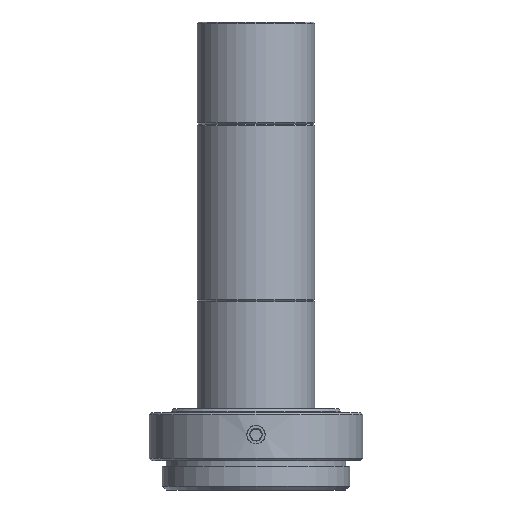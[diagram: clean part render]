
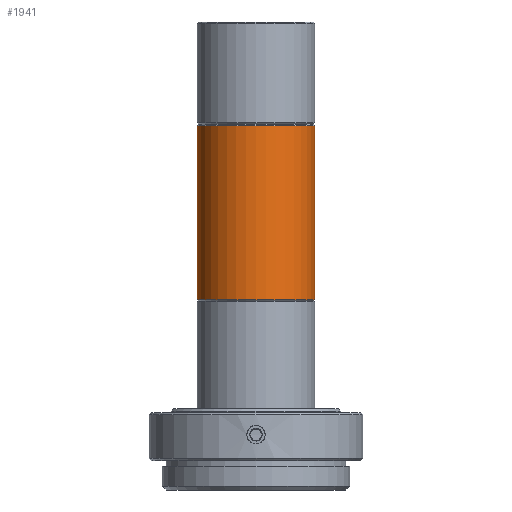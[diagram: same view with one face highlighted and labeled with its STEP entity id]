
A CAD part, front view. The second image highlights one B-rep face of the part: STEP entity #1941.
In plain terms, the highlighted cylindrical face has radius 8 mm (diameter 16 mm), a partial arc.
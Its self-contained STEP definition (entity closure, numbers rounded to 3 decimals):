
#752 = VERTEX_POINT ( 'NONE', #4356 ) ;
#753 = VERTEX_POINT ( 'NONE', #4360 ) ;
#756 = EDGE_CURVE ( 'NONE', #752, #753, #4355, .T. ) ;
#757 = EDGE_CURVE ( 'NONE', #808, #795, #4350, .T. ) ;
#773 = VERTEX_POINT ( 'NONE', #4393 ) ;
#776 = EDGE_CURVE ( 'NONE', #801, #773, #4423, .T. ) ;
#794 = VERTEX_POINT ( 'NONE', #4433 ) ;
#795 = VERTEX_POINT ( 'NONE', #4436 ) ;
#797 = VERTEX_POINT ( 'NONE', #4437 ) ;
#801 = VERTEX_POINT ( 'NONE', #4168 ) ;
#805 = EDGE_CURVE ( 'NONE', #797, #794, #4468, .T. ) ;
#808 = VERTEX_POINT ( 'NONE', #4456 ) ;
#1856 = EDGE_CURVE ( 'NONE', #752, #808, #6652, .T. ) ;
#1877 = EDGE_CURVE ( 'NONE', #773, #794, #6682, .T. ) ;
#1934 = EDGE_LOOP ( 'NONE', ( #1975, #1940, #1942, #1944, #1974, #1947, #1943, #1949 ) ) ;
#1940 = ORIENTED_EDGE ( 'NONE', *, *, #1856, .T. ) ;
#1941 = ADVANCED_FACE ( 'NONE', ( #6779 ), #6773, .T. ) ;
#1942 = ORIENTED_EDGE ( 'NONE', *, *, #757, .T. ) ;
#1943 = ORIENTED_EDGE ( 'NONE', *, *, #805, .F. ) ;
#1944 = ORIENTED_EDGE ( 'NONE', *, *, #1970, .F. ) ;
#1947 = ORIENTED_EDGE ( 'NONE', *, *, #1877, .T. ) ;
#1949 = ORIENTED_EDGE ( 'NONE', *, *, #1981, .F. ) ;
#1970 = EDGE_CURVE ( 'NONE', #801, #795, #6806, .T. ) ;
#1974 = ORIENTED_EDGE ( 'NONE', *, *, #776, .T. ) ;
#1975 = ORIENTED_EDGE ( 'NONE', *, *, #756, .F. ) ;
#1981 = EDGE_CURVE ( 'NONE', #753, #797, #6858, .T. ) ;
#4168 = CARTESIAN_POINT ( 'NONE',  ( -8., 0., -1.3 ) ) ;
#4347 = DIRECTION ( 'NONE',  ( 0., 0., -1. ) ) ;
#4348 = VECTOR ( 'NONE', #4347, 1000. ) ;
#4349 = CARTESIAN_POINT ( 'NONE',  ( -8., 0., 18.5 ) ) ;
#4350 = LINE ( 'NONE', #4349, #4348 ) ;
#4352 = DIRECTION ( 'NONE',  ( 0., 0., -1. ) ) ;
#4353 = VECTOR ( 'NONE', #4352, 1000. ) ;
#4354 = CARTESIAN_POINT ( 'NONE',  ( 8., 0., 18.5 ) ) ;
#4355 = LINE ( 'NONE', #4354, #4353 ) ;
#4356 = CARTESIAN_POINT ( 'NONE',  ( 8., 0., 18.3 ) ) ;
#4360 = CARTESIAN_POINT ( 'NONE',  ( 8., 0., 14.3 ) ) ;
#4381 = CARTESIAN_POINT ( 'NONE',  ( -8., 0., 18.5 ) ) ;
#4393 = CARTESIAN_POINT ( 'NONE',  ( -8., 0., -5.3 ) ) ;
#4421 = DIRECTION ( 'NONE',  ( 0., 0., -1. ) ) ;
#4422 = VECTOR ( 'NONE', #4421, 1000. ) ;
#4423 = LINE ( 'NONE', #4381, #4422 ) ;
#4433 = CARTESIAN_POINT ( 'NONE',  ( 8., 0., -5.3 ) ) ;
#4436 = CARTESIAN_POINT ( 'NONE',  ( -8., 0., 14.3 ) ) ;
#4437 = CARTESIAN_POINT ( 'NONE',  ( 8., 0., -1.3 ) ) ;
#4456 = CARTESIAN_POINT ( 'NONE',  ( -8., 0., 18.3 ) ) ;
#4465 = DIRECTION ( 'NONE',  ( 0., 0., -1. ) ) ;
#4466 = VECTOR ( 'NONE', #4465, 1000. ) ;
#4467 = CARTESIAN_POINT ( 'NONE',  ( 8., 0., 18.5 ) ) ;
#4468 = LINE ( 'NONE', #4467, #4466 ) ;
#6649 = DIRECTION ( 'NONE',  ( 1., 0., 0. ) ) ;
#6650 = DIRECTION ( 'NONE',  ( 0., 0., -1. ) ) ;
#6651 = AXIS2_PLACEMENT_3D ( 'NONE', #6663, #6650, #6649 ) ;
#6652 = CIRCLE ( 'NONE', #6651, 8. ) ;
#6663 = CARTESIAN_POINT ( 'NONE',  ( 0., 0., 18.3 ) ) ;
#6674 = DIRECTION ( 'NONE',  ( 1., 0., 0. ) ) ;
#6675 = DIRECTION ( 'NONE',  ( 0., 0., 1. ) ) ;
#6676 = AXIS2_PLACEMENT_3D ( 'NONE', #6697, #6675, #6674 ) ;
#6682 = CIRCLE ( 'NONE', #6676, 8. ) ;
#6697 = CARTESIAN_POINT ( 'NONE',  ( 0., 0., -5.3 ) ) ;
#6766 = AXIS2_PLACEMENT_3D ( 'NONE', #6778, #6768, #6767 ) ;
#6767 = DIRECTION ( 'NONE',  ( -1., 0., 0. ) ) ;
#6768 = DIRECTION ( 'NONE',  ( 0., 0., -1. ) ) ;
#6773 = CYLINDRICAL_SURFACE ( 'NONE', #6766, 8. ) ;
#6778 = CARTESIAN_POINT ( 'NONE',  ( 0., 0., 18.5 ) ) ;
#6779 = FACE_OUTER_BOUND ( 'NONE', #1934, .T. ) ;
#6804 = DIRECTION ( 'NONE',  ( 0., 0., 1. ) ) ;
#6805 = VECTOR ( 'NONE', #6804, 1000. ) ;
#6806 = LINE ( 'NONE', #6812, #6805 ) ;
#6812 = CARTESIAN_POINT ( 'NONE',  ( -8., 0., -1.5 ) ) ;
#6849 = DIRECTION ( 'NONE',  ( 0., 0., -1. ) ) ;
#6850 = VECTOR ( 'NONE', #6849, 1000. ) ;
#6857 = CARTESIAN_POINT ( 'NONE',  ( 8., 0., -1.5 ) ) ;
#6858 = LINE ( 'NONE', #6857, #6850 ) ;
